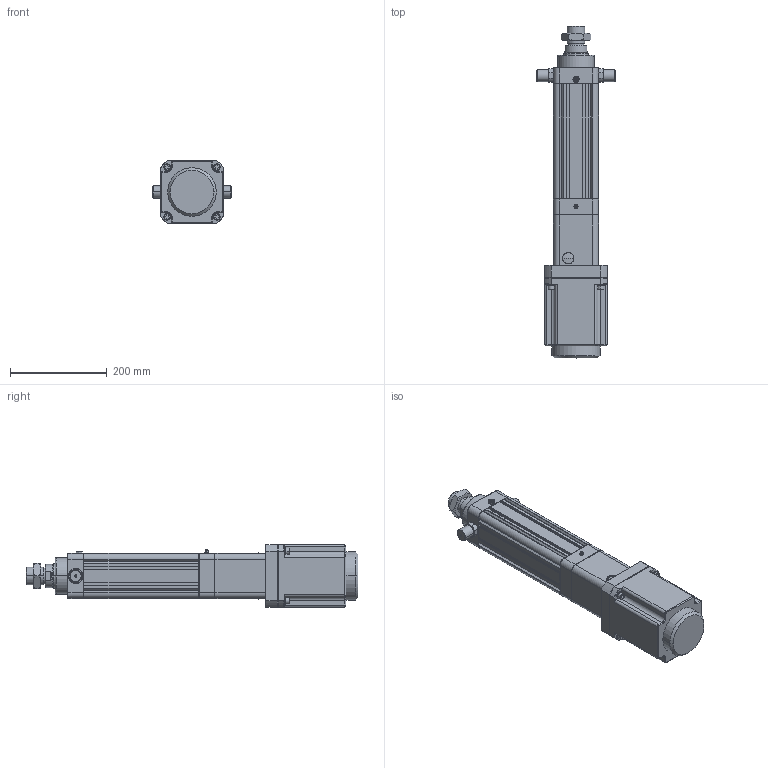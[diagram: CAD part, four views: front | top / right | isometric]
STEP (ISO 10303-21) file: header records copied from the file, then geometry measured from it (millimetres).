
FILE_DESCRIPTION((''),'2;1');
FILE_NAME('HE80-D-P_ASM','2020-05-13T',('ASUS20200'),(''),'CREO PARAMETRIC BY PTC INC, 2014190','CREO PARAMETRIC BY PTC INC, 2014190','');
FILE_SCHEMA(('CONFIG_CONTROL_DESIGN'));
Length unit declared in the file: millimetre
Products named in the file (23): HE80-D-P-001-X1; HE80-D-P-002-X1; HE80-D-P-003-X1; 30304J; YZ-M6X1; SLM-01; JDB506030; HE80-100-D-P-X1_ASM; HE80-D-009-X1; HE80-D-010-X1-130N; M10X110; SKT-20; M8X20; 130ST-M10010; JX6X6X40; TD-8; M8X40; HE80-D-P-005-X1; HE80-D-P-004-X1; HE80-D-P-008-X1; LGLM-M10-25; HE80-TC; HE80-D-P_ASM
Assembly tree (40 placements, depth 3):
  HE80-D-P_ASM
    HE80-100-D-P-X1_ASM
      HE80-D-P-001-X1
      HE80-D-P-002-X1
      HE80-D-P-003-X1
      30304J  x2
      YZ-M6X1
      SLM-01
      JDB506030
    HE80-D-009-X1
    HE80-D-010-X1-130N
    M10X110  x4
    SKT-20  x2
    M8X20  x4
    130ST-M10010
    JX6X6X40
    TD-8  x4
    M8X40  x4
    HE80-D-P-005-X1
    HE80-D-P-004-X1
    HE80-D-P-008-X1
    LGLM-M10-25  x4
    HE80-TC  x2
Bounding box: 163 x 686 x 130.01 mm (x, y, z)
Volume: 4621972.9 mm3; surface area: 790313.5 mm2
Topology: 39 solids, 64 shells, 2211 faces, 5136 edges, 3070 vertices
Faces by surface type: plane 811, cone 672, cylinder 600, torus 94, sphere 30, bspline 4
Entity records: 51953 total; most frequent: CARTESIAN_POINT 10194, DIRECTION 9129, ORIENTED_EDGE 8150, EDGE_CURVE 4128, AXIS2_PLACEMENT_3D 3475, VERTEX_POINT 2473, VECTOR 2179, LINE 2179
